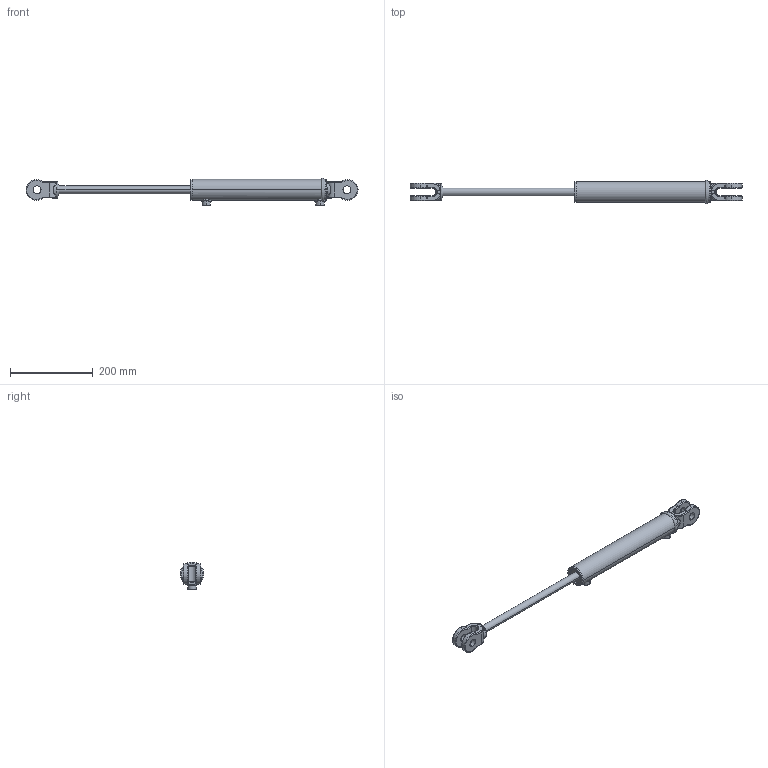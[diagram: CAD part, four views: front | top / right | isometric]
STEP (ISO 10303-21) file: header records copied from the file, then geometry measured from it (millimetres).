
FILE_DESCRIPTION (( 'STEP AP203' ), '1' );
FILE_NAME ('CL-CL150075x254 (10) extended.STEP', '2014-11-20T20:42:20', ( '' ), ( '' ), 'SwSTEP 2.0', 'SolidWorks 2014', '' );
FILE_SCHEMA (( 'CONFIG_CONTROL_DESIGN' ));
Length unit declared in the file: millimetre
Products named in the file (3): CL-CL150075x254 (10) BODY; 10 SPARE; CL-CL150075x254 (10) extended
Assembly tree (2 placements, depth 2):
  CL-CL150075x254 (10) extended
    CL-CL150075x254 (10) BODY
    10 SPARE
Bounding box: 802.41 x 56.77 x 66.78 mm (x, y, z)
Volume: 866700 mm3; surface area: 121440.3 mm2
Topology: 2 solids, 2 shells, 261 faces, 641 edges, 379 vertices
Faces by surface type: bspline 116, cylinder 88, plane 32, torus 17, cone 8
Entity records: 23685 total; most frequent: CARTESIAN_POINT 18075, ORIENTED_EDGE 1250, DIRECTION 902, EDGE_CURVE 625, VERTEX_POINT 379, AXIS2_PLACEMENT_3D 376, EDGE_LOOP 280, FACE_OUTER_BOUND 261
